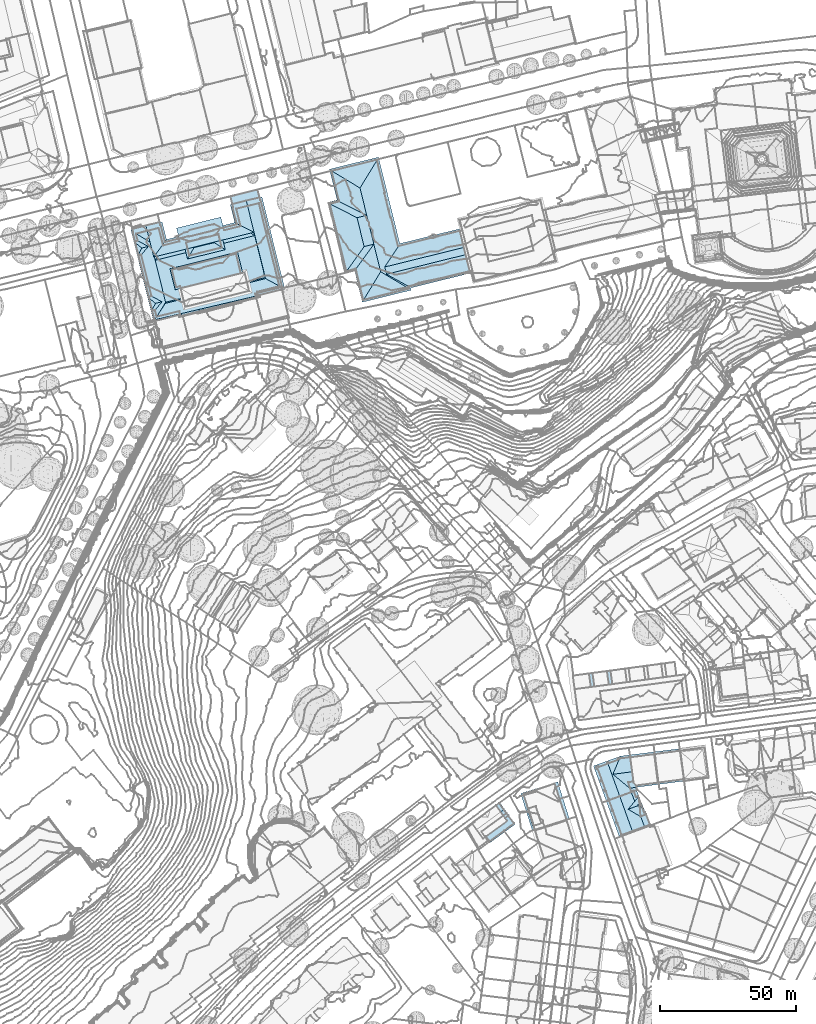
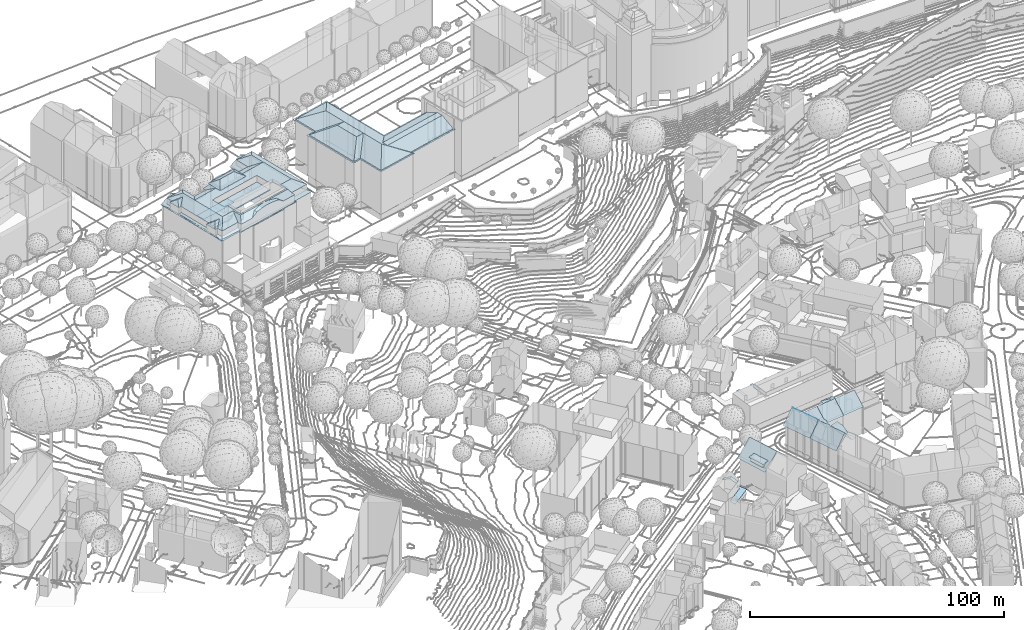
# Not in any storey, part 72 of 494: 21 roofs.
"""IFC2X3 model written with IfcOpenShell, lengths in metres."""

from ifc_helpers import new_model, si_unit, frame, origin_with_axes, place, context, subcontext, project, faceted_brep, element, save


model = new_model("IFC2X3")

# Units and contexts
model_context = context("Model", 3, precision=1e-05, world=origin_with_axes())
body_context = subcontext(model_context, "Body", "Model", "MODEL_VIEW")
ifc_project = project(units=[si_unit("AREAUNIT", "SQUARE_METRE"), si_unit("LENGTHUNIT", "METRE")], contexts=[model_context])

# Roofs
roof_1_placement = place(None, frame((424.3367320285, 142.6277160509, 499.4686), z_axis=(0.0, 0.0, 1.0), x_axis=(1.0, 0.0, 0.0)))
element("IfcRoof", 1, at=roof_1_placement, Name="Roof 1", ShapeType="NOTDEFINED", context=body_context, shape_type="Brep", body=[
    faceted_brep([(7.9599999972, -5.2518999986, 5.0955), (8.1849999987, -5.5594999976, 5.0315), (7.868999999, -4.5262999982, 5.2045), (7.5859999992, -4.740199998, 5.2025), (6.9169999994, -3.2236000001, 5.4764), (14.675999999, 2.452200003, 5.4764), (17.4479999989, 1.2159000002, 5.0315), (15.050999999, 4.3672000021, 5.7004), (14.4489999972, 5.3145000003, 5.8894), (13.8949999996, 3.5215000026, 5.7004), (14.3859999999, 5.2675999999, 5.8894), (7.8849999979, -5.1503999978, 5.1075)], [[[0, 1, 2]], [[2, 3, 0]], [[4, 2, 5]], [[1, 6, 2]], [[5, 6, 7]], [[6, 5, 2]], [[7, 6, 8]], [[5, 7, 9]], [[10, 7, 8]], [[3, 11, 0]]]),
])
roof_2_placement = place(None, frame((424.3367320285, 142.6277160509, 499.4686), z_axis=(0.0, 0.0, 1.0), x_axis=(1.0, 0.0, 0.0)))
element("IfcRoof", 2, at=roof_2_placement, Name="Roof 3", ShapeType="NOTDEFINED", context=body_context, shape_type="Brep", body=[
    faceted_brep([(10.3319999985, 8.3916000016, 7.6103), (12.2349999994, 5.7920000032, 9.1091), (11.8349999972, 8.7226999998, 7.8742), (11.75, 9.3476999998, 7.6103), (13.6119999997, 6.8008000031, 9.1091), (15.0859999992, 4.3925999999, 7.6102), (15.2739999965, 4.5313000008, 7.6102), (15.050999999, 4.3672000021, 7.6102), (13.8949999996, 3.5215000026, 7.6102)], [[[0, 1, 2]], [[3, 0, 2]], [[1, 4, 2]], [[4, 3, 2]], [[5, 6, 4]], [[7, 5, 4]], [[4, 8, 7]], [[1, 8, 4]]]),
])
roof_3_placement = place(None, frame((444.9497320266, 154.9236160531, 498.9646), z_axis=(0.0, 0.0, 1.0), x_axis=(1.0, 0.0, 0.0)))
element("IfcRoof", 3, at=roof_3_placement, Name="Roof 0", ShapeType="NOTDEFINED", context=body_context, shape_type="Brep", body=[
    faceted_brep([(-1.1059999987, 0.2314999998, 12.9798), (1.8170000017, -5.2655999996, 13.7497), (0.2419999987, 0.6563000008, 13.9397), (0.4070000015, 0.1338, 13.9397), (2.0839999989, -5.1816000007, 13.9397), (4.2390000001, -13.3515000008, 13.6667), (4.3049999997, -13.558600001, 13.6667), (3.3390000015, -13.8632000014, 12.9798), (3.8170000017, -11.6053999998, 13.7497), (4.6229999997, -13.2303999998, 13.9397), (4.0839999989, -11.5214000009, 13.9397), (7.2230000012, -12.6385999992, 16.5164), (10.1180000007, -11.7256000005, 19.4591), (7.1570000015, -12.4306000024, 16.5164), (10.0529999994, -11.5175000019, 19.4591), (6.3040000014, -11.3456999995, 16.0445), (4.0029999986, -4.0516999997, 16.0445), (6.0729999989, -11.4189000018, 15.8095), (5.9230000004, -10.9422999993, 15.8095), (5.813000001, 1.9208999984, 19.4592), (5.6719999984, 2.3691999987, 19.4592), (3.7719999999, -4.125, 15.8095), (3.9230000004, -4.6006000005, 15.8095), (12.8110000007, -10.6493999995, 16.6554), (12.8770000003, -10.8553999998, 16.6554), (15.4829999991, -9.8056000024, 13.9397), (11.2199999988, 3.7080000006, 13.9397), (11.1020000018, 4.0810999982, 13.9397), (16.8960000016, -9.5879000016, 12.9798), (15.8229999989, -9.6992000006, 13.6967), (15.8880000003, -9.9061999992, 13.6977), (12.4510000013, 4.5068999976, 12.9798), (1.1900000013, -4.9384000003, 15.6195), (3.4910000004, -12.2334000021, 15.6195)], [[[0, 1, 2]], [[2, 1, 3]], [[4, 3, 1]], [[1, 0, 5]], [[6, 5, 7]], [[8, 1, 5]], [[8, 9, 10]], [[8, 5, 9]], [[5, 0, 7]], [[11, 12, 13]], [[14, 13, 12]], [[15, 13, 16]], [[15, 17, 13]], [[13, 17, 9]], [[9, 17, 10]], [[10, 17, 18]], [[16, 13, 14]], [[19, 20, 16]], [[16, 20, 2]], [[16, 3, 21]], [[3, 16, 2]], [[21, 3, 4]], [[22, 21, 4]], [[16, 14, 19]], [[12, 23, 14]], [[23, 12, 24]], [[25, 26, 23]], [[26, 27, 20]], [[19, 14, 23]], [[19, 26, 20]], [[19, 23, 26]], [[28, 29, 30]], [[29, 31, 26]], [[31, 29, 28]], [[26, 25, 29]], [[27, 26, 31]], [[16, 32, 33]], [[33, 15, 16]]]),
])
roof_4_placement = place(None, frame((463.0307320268, 198.249816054, 500.4205), z_axis=(0.0, 0.0, 1.0), x_axis=(1.0, 0.0, 0.0)))
element("IfcRoof", 4, at=roof_4_placement, Name="Roof 2", ShapeType="NOTDEFINED", context=body_context, shape_type="Brep", body=[
    faceted_brep([(5.9059999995, 0.9306999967, 8.4932), (6.5870000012, -4.1562000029, 8.4932), (7.8759999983, -3.9834000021, 8.4932), (7.1950000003, 1.1024999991, 8.4932)], [[[0, 1, 2]], [[0, 2, 3]]]),
])
roof_5_placement = place(None, frame((463.0307320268, 198.249816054, 500.4205), z_axis=(0.0, 0.0, 1.0), x_axis=(1.0, 0.0, 0.0)))
element("IfcRoof", 5, at=roof_5_placement, Name="Roof 3", ShapeType="NOTDEFINED", context=body_context, shape_type="Brep", body=[
    faceted_brep([(13.1790000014, -3.2734000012, 8.4932), (13.7859999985, 1.9862999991, 8.4932), (12.4979999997, 1.8134999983, 8.4932), (14.4679999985, -3.1006000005, 8.4932)], [[[0, 1, 2]], [[0, 3, 1]]]),
])
roof_6_placement = place(None, frame((300.9637320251, 364.7801160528, 537.8963), z_axis=(0.0, 0.0, 1.0), x_axis=(1.0, 0.0, 0.0)))
element("IfcRoof", 6, at=roof_6_placement, Name="Roof 6", ShapeType="NOTDEFINED", context=body_context, shape_type="Brep", body=[
    faceted_brep([(41.068, -18.9824000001, 22.8008), (39.1620000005, -11.2890999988, 22.8008), (14.3980000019, -17.4257999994, 22.8008), (16.3040000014, -25.1182000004, 22.8008)], [[[0, 1, 2]], [[2, 3, 0]]]),
])
roof_7_placement = place(None, frame((300.9637320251, 364.7801160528, 537.8963), z_axis=(0.0, 0.0, 1.0), x_axis=(1.0, 0.0, 0.0)))
element("IfcRoof", 7, at=roof_7_placement, Name="Roof 7", ShapeType="NOTDEFINED", context=body_context, shape_type="Brep", body=[
    faceted_brep([(36.6130000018, 9.0566000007, 9.4711), (37.318, 6.2168000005, 9.4711), (47.2730000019, 8.683600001, 9.4711), (46.5520000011, 11.5449000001, 9.4711)], [[[0, 1, 2]], [[2, 3, 0]]]),
])
roof_8_placement = place(None, frame((300.9637320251, 364.7801160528, 537.8963), z_axis=(0.0, 0.0, 1.0), x_axis=(1.0, 0.0, 0.0)))
element("IfcRoof", 8, at=roof_8_placement, Name="Roof 8", ShapeType="NOTDEFINED", context=body_context, shape_type="Brep", body=[
    faceted_brep([(34.0020000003, -2.3808999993, 9.1961), (33.0390000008, 1.5088, 9.1961), (30.3570000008, -3.3018000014, 9.1961), (30.3940000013, -3.4512000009, 9.1961), (21.318, -5.7001999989, 9.1961), (16.824000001, -2.509800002, 9.1961), (17.7890000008, -6.4043000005, 9.1961), (21.2770000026, -5.5459000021, 9.1961)], [[[0, 1, 2]], [[3, 2, 4]], [[1, 5, 2]], [[5, 6, 7]], [[7, 4, 2]], [[5, 7, 2]]]),
])
roof_9_placement = place(None, frame((300.9637320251, 364.7801160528, 537.8963), z_axis=(0.0, 0.0, 1.0), x_axis=(1.0, 0.0, 0.0)))
element("IfcRoof", 9, at=roof_9_placement, Name="Roof 9", ShapeType="NOTDEFINED", context=body_context, shape_type="Brep", body=[
    faceted_brep([(47.3420000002, -27.0811000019, 20.327), (46.6359999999, -27.246100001, 20.332), (46.6380000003, -27.2558999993, 20.327), (46.756000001, -27.7334000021, 20.327), (40.6290000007, -29.5410000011, 20.327), (18.3710000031, -34.7675999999, 20.327), (47.5280000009, -27.8320000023, 20.327), (40.7200000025, -29.9072000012, 20.327), (24.6359999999, -33.8925999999, 20.327), (18.2520000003, -34.2881000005, 20.327), (17.6770000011, -34.4316999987, 20.327), (17.8630000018, -35.182599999, 20.327), (24.5450000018, -33.5263999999, 20.327), (18.1600000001, -33.9151000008, 20.546), (8.814000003, -36.1044999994, 20.616), (9.1710000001, -36.5390999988, 20.327), (8.3990000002, -36.7305000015, 20.327), (0.7080000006, -2.8544999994, 20.686), (0.0460000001, -3.0186000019, 20.3271), (1.6770000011, -7.4483000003, 20.6), (2.6680000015, -7.2021999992, 21.138), (2.0190000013, -4.5850000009, 21.138), (2.943, -12.5283000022, 20.603), (5.6190000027, -1.6376999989, 23.3528), (6.0990000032, -3.5742000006, 23.3528), (6.7240000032, -27.7089999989, 20.613), (3.9270000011, -12.2842000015, 21.138), (7.6900000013, -27.4706999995, 21.1379), (8.0850000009, -32.7666000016, 20.669), (7.9890000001, -32.7901000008, 20.617), (9.5480000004, -34.9688000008, 21.1359), (8.949000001, -32.5527000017, 21.1359), (8.495000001, -32.6651000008, 20.889), (46.7561000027, -27.7334000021, 20.127), (46.6359999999, -27.246100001, 20.132), (46.6380000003, -27.2558999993, 20.127)], [[[0, 1, 2]], [[0, 2, 3]], [[4, 3, 5]], [[0, 3, 6]], [[4, 6, 3]], [[7, 4, 8]], [[9, 10, 5]], [[5, 10, 11]], [[5, 12, 4]], [[12, 8, 4]], [[11, 12, 5]], [[9, 13, 10]], [[10, 13, 14]], [[15, 14, 16]], [[14, 15, 10]], [[17, 18, 19]], [[20, 21, 19]], [[19, 21, 17]], [[22, 19, 18]], [[18, 16, 22]], [[17, 21, 23]], [[24, 23, 21]], [[22, 25, 26]], [[25, 27, 26]], [[28, 29, 16]], [[16, 29, 25]], [[28, 16, 14]], [[25, 22, 16]], [[14, 30, 31]], [[14, 31, 32]], [[28, 14, 32]], [[33, 34, 35]]]),
])
roof_10_placement = place(None, frame((300.9637320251, 364.7801160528, 537.8963), z_axis=(0.0, 0.0, 1.0), x_axis=(1.0, 0.0, 0.0)))
element("IfcRoof", 10, at=roof_10_placement, Name="Roof 10", ShapeType="NOTDEFINED", context=body_context, shape_type="Brep", body=[
    faceted_brep([(18.4200000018, -24.5859999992, 23.3527), (40.4450000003, -19.1308999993, 23.3527), (18.2440000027, -23.875, 23.3527), (15.1810000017, -17.8007999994, 23.3527), (16.7770000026, -24.2382999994, 23.3527), (38.6730000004, -11.9785000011, 23.3527)], [[[0, 1, 2]], [[3, 4, 2]], [[1, 3, 2]], [[1, 5, 3]]]),
])
roof_11_placement = place(None, frame((300.9637320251, 364.7801160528, 537.8963), z_axis=(0.0, 0.0, 1.0), x_axis=(1.0, 0.0, 0.0)))
element("IfcRoof", 11, at=roof_11_placement, Name="Roof 11", ShapeType="NOTDEFINED", context=body_context, shape_type="Brep", body=[
    faceted_brep([(11.8500000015, -8.4512000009, 21.157), (8.4670000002, -13.1338, 23.3528), (40.2690000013, -1.5547000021, 21.2399), (13.1290000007, -6.6807000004, 20.327), (12.5890000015, -7.4287, 20.678), (38.8990000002, -0.870099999, 20.656), (38.1280000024, -0.4862999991, 20.327), (45.2230000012, -4.0263999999, 23.3527), (55.6579999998, -24.371100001, 20.6809), (56.4830000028, -24.816399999, 20.327), (48.1300000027, 8.8955000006, 20.327), (49.4330000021, -21.0175999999, 23.3527), (54.5620000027, -23.7813000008, 21.1509), (47.2730000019, 8.683600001, 20.778), (42.375, 7.4697000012, 23.3528), (36.5160000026, 6.0175999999, 20.327), (37.318, 6.2168000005, 20.741), (5.6190000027, -1.6376999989, 23.3528), (6.0990000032, -3.5742000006, 23.3528), (10.6750000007, -0.3858000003, 20.759), (11.5170000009, -0.1768000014, 20.3271), (9.5480000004, -34.9688000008, 21.1359), (18.1550000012, -33.9169999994, 20.546), (8.814000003, -36.1044999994, 20.616), (12.6770000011, -30.1240000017, 23.3527), (55.5190000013, -25.0557000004, 20.327), (47.3420000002, -27.0811000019, 20.327)], [[[0, 1, 2]], [[3, 4, 5]], [[0, 5, 4]], [[5, 0, 2]], [[6, 3, 5]], [[2, 1, 7]], [[8, 9, 10]], [[11, 12, 7]], [[8, 13, 12]], [[13, 7, 12]], [[14, 7, 13]], [[13, 8, 10]], [[5, 2, 14]], [[6, 5, 14]], [[2, 7, 14]], [[15, 6, 16]], [[16, 6, 14]], [[17, 18, 19]], [[3, 20, 19]], [[19, 18, 0]], [[4, 19, 0]], [[3, 19, 4]], [[0, 18, 1]], [[11, 21, 22]], [[22, 21, 23]], [[24, 21, 11]], [[25, 9, 8]], [[25, 8, 26]], [[12, 11, 22]], [[12, 26, 8]], [[12, 22, 26]]]),
])
roof_12_placement = place(None, frame((300.9637320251, 364.7801160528, 537.8963), z_axis=(0.0, 0.0, 1.0), x_axis=(1.0, 0.0, 0.0)))
element("IfcRoof", 12, at=roof_12_placement, Name="Roof 13", ShapeType="NOTDEFINED", context=body_context, shape_type="Brep", body=[
    faceted_brep([(4.0890000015, -9.8359999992, 25.7165), (6.4920000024, -9.2412, 25.7165), (1.7910000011, -7.9052999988, 24.1767), (2.6680000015, -7.2021999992, 23.8777), (1.6770000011, -7.4483000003, 23.8777), (1.3450000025, -7.5302999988, 23.8777), (12.8100000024, -29.6797000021, 26.4104), (11.5150000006, -29.5088, 25.7165), (9.5610000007, -35.0214999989, 23.8777), (7.6900000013, -27.4706999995, 23.8777), (8.9980000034, -14.2987999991, 26.4105), (8.949000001, -32.5527999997, 23.8777), (7.3859999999, -7.7930000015, 26.4105), (2.0190000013, -4.5850000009, 23.8777), (3.9270000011, -12.2842000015, 23.8777), (10.3790000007, -2.5146999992, 23.8777), (11.9610000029, -8.8984999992, 23.8777), (2.6040000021, -12.6123000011, 23.8777), (2.943, -12.5283000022, 23.8777), (2.8500000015, -12.1533000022, 24.1817), (7.626000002, -32.8808999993, 23.8777), (7.9890000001, -32.7901000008, 23.8777), (9.1110000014, -30.1044999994, 25.7165), (6.8470000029, -28.2021999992, 24.1997), (6.3660000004, -27.7987999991, 23.8777), (6.7240000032, -27.7089999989, 23.8777), (17.9210000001, -32.9501999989, 23.8777), (18.4539999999, -28.2802999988, 26.4104), (20.8410000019, -13.8418000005, 26.4104), (20.2630000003, -11.5078000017, 26.4105), (15.1810000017, -17.8007999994, 26.4104), (34.0820000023, -8.0820000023, 26.4104), (34.6600000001, -10.4169999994, 26.4104), (45.438000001, -5.2695000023, 26.4104), (38.6730000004, -11.9785000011, 26.4104), (16.7770000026, -24.2382999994, 26.4104), (18.2440000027, -23.875, 26.4104), (18.3770000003, -24.5976999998, 26.4104), (18.4200000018, -24.5859999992, 26.4104), (41.8080000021, -18.7919999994, 26.4104), (40.4450000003, -19.1308999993, 26.4104), (20.0600000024, -31.3905999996, 26.4104), (19.4600000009, -32.3368999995, 26.4104), (25.9299999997, -29.9862999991, 26.4104), (43.4110000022, -22.0967000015, 26.4104), (49.2490000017, -20.6493999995, 26.4104), (43.4910000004, -25.5850000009, 26.4104), (44.4170000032, -26.1533000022, 26.4104), (31.7890000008, -28.5410000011, 26.4104), (32.012000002, -29.2276000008, 26.4104), (34.6469999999, -30.7344000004, 26.3244), (34.1600000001, -28.7686000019, 26.3244), (32.5160000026, -31.2626999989, 26.4104), (29.8990000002, -29.8242000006, 26.3244), (30.3859999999, -31.7901000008, 26.3244), (26.3390000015, -31.2655999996, 25.6685), (24.2840000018, -33.3027999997, 23.8777), (26.6950000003, -32.7041000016, 25.6685), (40.7480000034, -29.2226999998, 23.8777), (37.9810000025, -28.3819000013, 25.6685), (38.3370000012, -29.8194000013, 25.6685), (47.0410000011, 6.5702999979, 23.8777), (38.7640000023, 4.5194999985, 23.8777), (43.8260000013, 1.2353000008, 26.4104), (54.5830000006, -23.8652999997, 23.8776), (46.3060000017, -25.9160000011, 23.8776), (33.6920000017, -8.1797000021, 26.4104), (33.9800000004, -8.1084000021, 26.4104), (34.0530000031, -7.9688000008, 26.3445), (34.3390000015, -3.3535000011, 23.8777), (40.3460000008, -1.8652000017, 23.8777), (21.7900000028, -5.5830000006, 25.3436), (21.6490000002, -5.0166000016, 25.3436), (20.7160000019, -5.6845999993, 24.3887), (21.9410000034, -6.1944000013, 25.3436), (20.0600000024, -5.4101999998, 23.8777), (24.4790000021, -6.0225000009, 25.8795), (24.0810000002, -4.4140999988, 25.8795), (29.3220000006, -3.1152999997, 25.3436), (30.3680000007, -3.3779000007, 24.4916), (30.9110000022, -2.7217000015, 23.8777), (29.4630000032, -3.682599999, 25.3436), (30.2870000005, -3.4785000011, 24.5836), (29.6140000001, -4.2930000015, 25.3436), (27.2880000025, -5.3262000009, 25.8795), (26.8900000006, -3.7188000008, 25.8795), (25.4850000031, -4.066399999, 25.9505), (25.8980000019, -5.7314999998, 25.9505), (32.268000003, -4.9228999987, 27.1734), (32.9820000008, -3.6455000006, 26.5444), (19.1630000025, -7.0694000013, 26.5444), (30.6400000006, -7.8368999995, 28.6072), (20.3920000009, -7.8662, 27.1734), (23.1920000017, -9.682599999, 28.6072), (20.8410000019, -13.8418000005, 26.5444), (21.557, -12.5742000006, 27.1734), (33.4350000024, -9.6319000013, 27.1724), (34.6600000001, -10.4169999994, 26.5444), (19.8040000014, -7.6338, 26.4105), (20.375, -7.7998000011, 26.4105), (32.2520000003, -4.8564999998, 26.4104), (20.7350000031, -11.3905999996, 26.4105), (21.5710000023, -12.628899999, 26.4104), (20.3650000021, -11.4824000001, 26.4105), (32.7609999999, -4.4237999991, 26.4105), (34.5310000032, -10.3339999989, 26.4104), (33.449000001, -9.6865000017, 26.4104), (20.9160000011, -13.7080000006, 26.4104), (20.2340000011, -11.3925999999, 26.3445), (17.9100000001, -7.4237999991, 23.8777), (18.3710000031, -34.7675999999, 23.8777), (17.564000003, -6.0283000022, 23.8777), (17.6640000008, -6.432599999, 23.8777), (18.0100000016, -6.3476999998, 24.3817), (46.756000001, -27.7334000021, 23.8776), (33.7430000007, -2.4589999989, 24.3916), (33.9930000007, -1.9580000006, 23.8777), (34.0950000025, -2.371100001, 23.8777), (43.4910000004, -25.5850000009, 26.2104), (20.120000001, -31.375, 26.2104)], [[[0, 1, 2]], [[2, 1, 3]], [[2, 4, 5]], [[4, 2, 3]], [[6, 7, 8]], [[9, 7, 10]], [[7, 11, 8]], [[7, 6, 10]], [[10, 12, 1]], [[1, 12, 13]], [[10, 1, 14]], [[13, 3, 1]], [[10, 14, 9]], [[15, 12, 16]], [[10, 16, 12]], [[15, 13, 12]], [[17, 18, 19]], [[19, 18, 1]], [[1, 0, 19]], [[1, 18, 14]], [[2, 5, 17]], [[2, 19, 0]], [[19, 2, 17]], [[20, 21, 7]], [[7, 22, 20]], [[7, 21, 11]], [[23, 24, 20]], [[20, 22, 23]], [[7, 9, 22]], [[22, 9, 23]], [[23, 25, 24]], [[25, 23, 9]], [[6, 8, 26]], [[26, 27, 6]], [[10, 28, 29]], [[28, 10, 30]], [[31, 32, 33]], [[32, 28, 34]], [[6, 35, 30]], [[36, 37, 38]], [[37, 36, 35]], [[34, 28, 30]], [[30, 10, 6]], [[39, 33, 34]], [[34, 33, 32]], [[39, 34, 40]], [[6, 27, 37]], [[41, 42, 43]], [[42, 37, 27]], [[41, 37, 42]], [[39, 44, 45]], [[44, 46, 47]], [[39, 45, 33]], [[46, 44, 39]], [[48, 43, 49]], [[46, 49, 47]], [[49, 46, 48]], [[43, 42, 49]], [[37, 35, 6]], [[50, 51, 52]], [[49, 52, 51]], [[52, 49, 53]], [[53, 54, 52]], [[55, 56, 57]], [[54, 53, 57]], [[55, 57, 53]], [[58, 59, 60]], [[60, 59, 50]], [[51, 50, 59]], [[61, 62, 63]], [[45, 64, 33]], [[33, 61, 63]], [[61, 33, 64]], [[44, 65, 45]], [[64, 45, 65]], [[66, 67, 68]], [[66, 68, 69]], [[33, 70, 68]], [[69, 68, 70]], [[68, 31, 33]], [[70, 33, 63]], [[63, 62, 70]], [[71, 72, 73]], [[71, 73, 74]], [[73, 72, 75]], [[71, 74, 76]], [[72, 71, 77]], [[76, 77, 71]], [[78, 79, 80]], [[78, 81, 82]], [[83, 82, 81]], [[78, 82, 79]], [[84, 78, 85]], [[81, 78, 84]], [[81, 84, 83]], [[86, 87, 84]], [[84, 85, 86]], [[86, 77, 76]], [[76, 87, 86]], [[88, 89, 90]], [[91, 88, 92]], [[92, 93, 91]], [[90, 92, 88]], [[92, 90, 94]], [[92, 95, 93]], [[95, 92, 94]], [[95, 96, 93]], [[96, 95, 94]], [[96, 91, 93]], [[97, 96, 94]], [[96, 97, 88]], [[96, 88, 91]], [[88, 97, 89]], [[98, 99, 100]], [[99, 101, 102]], [[101, 103, 102]], [[99, 98, 101]], [[100, 104, 98]], [[100, 66, 104]], [[105, 106, 102]], [[102, 107, 105]], [[102, 103, 107]], [[105, 67, 106]], [[67, 66, 106]], [[100, 106, 66]], [[16, 108, 109]], [[108, 16, 10]], [[108, 101, 109]], [[101, 108, 103]], [[29, 108, 10]], [[42, 27, 26]], [[26, 110, 42]], [[111, 112, 113]], [[113, 112, 109]], [[101, 98, 113]], [[101, 113, 109]], [[58, 114, 59]], [[59, 114, 47]], [[51, 59, 47]], [[49, 51, 47]], [[53, 49, 42]], [[55, 53, 42]], [[55, 110, 56]], [[110, 55, 42]], [[114, 65, 47]], [[44, 47, 65]], [[98, 74, 113]], [[74, 98, 76]], [[87, 76, 98]], [[98, 104, 87]], [[111, 113, 75]], [[73, 75, 113]], [[113, 74, 73]], [[83, 84, 104]], [[115, 83, 104]], [[83, 115, 82]], [[84, 87, 104]], [[80, 115, 116]], [[115, 80, 79]], [[79, 82, 115]], [[104, 66, 115]], [[115, 66, 69]], [[115, 117, 116]], [[117, 115, 69]], [[118, 119, 48]], [[48, 119, 43]]]),
])
roof_13_placement = place(None, frame((475.9607320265, 152.5359160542, 499.4976), z_axis=(0.0, 0.0, 1.0), x_axis=(1.0, 0.0, 0.0)))
element("IfcRoof", 13, at=roof_13_placement, Name="Roof 0", ShapeType="NOTDEFINED", context=body_context, shape_type="Brep", body=[
    faceted_brep([(12.5850000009, -2.8017000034, 15.8534), (13.5419999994, -4.2285000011, 13.9276), (13.0819999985, -3.071200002, 15.3145), (10.8319999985, -1.8554000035, 17.7542), (13.2010000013, -4.3515000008, 13.9976), (13.1119999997, -4.2578000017, 14.1386), (13.8729999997, -5.0605000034, 12.9307), (7.2580000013, -3.1504000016, 17.7112), (11.870000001, -5.8955000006, 12.7847), (11.2109999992, 1.5937999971, 12.8967), (11.0599999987, 1.4120999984, 13.0807), (11.1600000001, 1.1338, 13.5436), (11.7259999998, -0.4287, 15.7334), (11.9109999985, -0.1318000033, 15.3145)], [[[0, 1, 2]], [[1, 0, 3]], [[4, 1, 5]], [[1, 4, 6]], [[5, 1, 3]], [[7, 5, 3]], [[5, 7, 8]], [[4, 8, 6]], [[8, 4, 5]], [[9, 10, 11]], [[11, 7, 3]], [[7, 11, 10]], [[9, 11, 12]], [[9, 12, 13]], [[12, 11, 3]], [[0, 2, 13]], [[12, 3, 0]], [[13, 12, 0]]]),
])
roof_14_placement = place(None, frame((475.9607320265, 152.5359160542, 499.4976), z_axis=(0.0, 0.0, 1.0), x_axis=(1.0, 0.0, 0.0)))
element("IfcRoof", 14, at=roof_14_placement, Name="Roof 1", ShapeType="NOTDEFINED", context=body_context, shape_type="Brep", body=[
    faceted_brep([(9.6680000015, -0.2578000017, 12.5737), (9.4239999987, 3.4130999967, 12.5967), (8.3819999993, 3.0361999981, 12.5987), (10.6689999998, 0.9423999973, 12.5767), (10.1860000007, 3.6884999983, 12.5947), (11.2109999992, 1.5937999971, 12.6027), (10.3920000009, 3.7626999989, 12.6027), (11.0599999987, 1.4120999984, 12.5957), (11.2809999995, 0.8017999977, 12.5947), (15.3020000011, -8.875, 12.6027), (11.870000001, -5.8955000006, 12.5307), (15.0579999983, -8.9638000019, 12.6027), (13.2730000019, -9.6113000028, 12.5027), (13.8729999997, -5.0605000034, 12.6027), (4.7390000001, -12.7187000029, 13.5126), (8.8150000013, -11.2343000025, 18.5301), (0.0, 0.0, 13.3957), (3.9250000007, -13.0166000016, 12.5107), (-0.7190000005, -0.2597000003, 12.5107), (1.7479999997, 0.6328999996, 15.5464), (4.2050000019, 1.5224999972, 18.5252), (8.8300000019, -1.2646000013, 14.1886), (6.4640000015, 2.3408999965, 15.4795), (7.2580000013, -3.1504000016, 16.9023), (4.4210000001, 1.6005999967, 18.2632), (10.5179999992, -10.6123000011, 16.1894)], [[[0, 1, 2]], [[1, 3, 4]], [[3, 1, 0]], [[5, 6, 7]], [[4, 3, 7]], [[7, 8, 5]], [[4, 7, 6]], [[9, 10, 11]], [[11, 10, 12]], [[10, 9, 13]], [[14, 15, 16]], [[17, 14, 18]], [[16, 18, 14]], [[19, 16, 15]], [[19, 15, 20]], [[21, 22, 23]], [[23, 22, 24]], [[15, 23, 24]], [[10, 23, 15]], [[15, 24, 20]], [[2, 22, 0]], [[21, 0, 22]], [[10, 25, 12]], [[25, 10, 15]]]),
])
roof_15_placement = place(None, frame((484.0377320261, 168.4207160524, 499.5076), z_axis=(0.0, 0.0, 1.0), x_axis=(1.0, 0.0, 0.0)))
element("IfcRoof", 15, at=roof_15_placement, Name="Roof 0", ShapeType="NOTDEFINED", context=body_context, shape_type="Brep", body=[
    faceted_brep([(9.4840000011, -4.1561999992, 18.0972), (9.1700000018, -1.6893999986, 15.8574), (6.0, -1.1035000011, 14.9625), (0.0190000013, -0.1405999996, 13.3997), (0.7120000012, -5.3027000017, 18.0912), (5.9820000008, -0.9472999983, 14.8185), (5.7919999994, 0.6856000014, 13.3257), (-0.0889999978, 0.6631000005, 12.6617), (6.0659999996, 0.8027000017, 13.2527), (6.0760000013, 0.7236000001, 13.3247), (6.6909999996, 0.8856999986, 13.2507), (6.7010000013, 0.8066000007, 13.3227), (8.819000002, 1.0683999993, 13.3347), (8.7890000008, 1.3027000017, 13.1197), (-0.1140000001, 0.8524999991, 12.4808), (8.7039999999, 1.9677999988, 12.4827), (9.2120000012, -0.4219000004, 15.7874), (11.6810000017, 1.7206999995, 15.0095), (5.7640000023, 0.9237999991, 15.0095), (9.0289999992, -0.5810000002, 15.8454), (2.1359999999, -10.4189000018, 13.6186), (9.8790000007, -7.2606999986, 15.4335), (1.251000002, -9.3192999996, 14.6435), (2.2750000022, -10.871100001, 13.2217), (10.1469999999, -9.3623000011, 13.6296), (2.313000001, -10.9921999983, 13.1147), (10.2230000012, -9.9600000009, 13.1167), (9.3680000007, -1.5967000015, 15.7974), (11.9539999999, -0.3964999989, 15.0195), (5.7919999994, 0.6856000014, 15.0105), (6.0, -1.1035000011, 15.0195)], [[[0, 1, 2]], [[0, 2, 3]], [[3, 4, 0]], [[3, 2, 5]], [[5, 6, 7]], [[3, 5, 7]], [[8, 6, 9]], [[6, 8, 7]], [[7, 8, 10]], [[10, 11, 12]], [[12, 13, 10]], [[10, 13, 7]], [[14, 7, 13]], [[13, 15, 14]], [[16, 17, 18]], [[18, 19, 16]], [[4, 20, 21]], [[4, 22, 20]], [[20, 23, 24]], [[25, 26, 24]], [[0, 4, 21]], [[21, 20, 24]], [[23, 25, 24]], [[1, 27, 19]], [[19, 27, 16]], [[16, 28, 17]], [[28, 16, 27]], [[18, 29, 19]], [[30, 1, 19]], [[30, 19, 29]]]),
])
roof_16_placement = place(None, frame((492.8567320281, 169.4891160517, 499.5076), z_axis=(0.0, 0.0, 1.0), x_axis=(1.0, 0.0, 0.0)))
element("IfcRoof", 16, at=roof_16_placement, Name="Roof 0", ShapeType="NOTDEFINED", context=body_context, shape_type="Brep", body=[
    faceted_brep([(10.9119999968, -9.0, 13.7836), (10.8149999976, -8.2734999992, 14.4075), (1.4039999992, -11.0284000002, 13.1167), (11.0119999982, -9.746100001, 13.1427), (10.2410000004, -3.9726999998, 18.1042), (1.0599999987, -8.3290999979, 15.4335), (1.3279999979, -10.4307000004, 13.6296), (11.0159999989, -9.7734999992, 13.1197), (0.6649999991, -5.2245999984, 18.0972), (0.3209999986, -2.5243999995, 15.6454), (0.5189999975, -2.4433999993, 15.5954), (-0.0300000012, 0.2343000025, 13.1197), (0.0, 0.0, 13.3347), (0.1919999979, 0.0234000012, 13.3357), (2.5859999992, 0.4228000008, 13.2547), (9.5859999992, 0.9277000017, 13.6146), (9.5279999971, 1.3593000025, 13.2007), (9.4289999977, 2.1064000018, 12.4857), (-0.1150000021, 0.8993999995, 12.4827)], [[[0, 1, 2]], [[3, 0, 2]], [[1, 4, 5]], [[2, 1, 6]], [[7, 3, 2]], [[6, 1, 5]], [[5, 4, 8]], [[4, 9, 8]], [[10, 9, 4]], [[11, 12, 13]], [[11, 13, 14]], [[10, 14, 13]], [[10, 4, 14]], [[14, 4, 15]], [[14, 15, 16]], [[16, 17, 11]], [[11, 14, 16]], [[17, 18, 11]]]),
])
roof_17_placement = place(None, frame((471.492732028, 164.8240160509, 499.4976), z_axis=(0.0, 0.0, 1.0), x_axis=(1.0, 0.0, 0.0)))
element("IfcRoof", 17, at=roof_17_placement, Name="Roof 0", ShapeType="NOTDEFINED", context=body_context, shape_type="Brep", body=[
    faceted_brep([(6.1339999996, -2.6376999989, 18.0962), (12.5149999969, -7.7030999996, 13.1227), (13.7960000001, -5.7225999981, 14.6535), (14.680999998, -6.8222000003, 13.6286), (12.2579999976, -7.7372999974, 13.1227), (12.106999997, 3.5391000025, 13.2807), (8.9149999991, 4.004900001, 12.4898), (8.5969999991, 3.246100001, 13.1307), (12.561999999, 3.4726999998, 13.3937), (13.2569999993, -1.7060000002, 18.1012), (12.5449999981, 3.5967000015, 13.2797), (12.4560000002, 4.259800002, 12.6717), (12.430999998, 4.4492000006, 12.4908), (14.856999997, -7.3954999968, 13.1247)], [[[0, 1, 2]], [[2, 1, 3]], [[1, 0, 4]], [[5, 6, 7]], [[8, 5, 9]], [[0, 9, 5]], [[0, 5, 7]], [[8, 10, 5]], [[11, 6, 5]], [[11, 5, 10]], [[6, 11, 12]], [[0, 2, 9]], [[3, 1, 13]]]),
])
roof_18_placement = place(None, frame((471.492732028, 164.8240160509, 499.4976), z_axis=(0.0, 0.0, 1.0), x_axis=(1.0, 0.0, 0.0)))
element("IfcRoof", 18, at=roof_18_placement, Name="Roof 1", ShapeType="NOTDEFINED", context=body_context, shape_type="Brep", body=[
    faceted_brep([(2.061999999, -4.6796999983, 13.7926), (-0.9700000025, 0.4131000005, 12.5118), (3.748999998, -12.547799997, 12.5107), (4.4679999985, -12.2880999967, 13.3957), (6.2159999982, -11.6551999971, 15.5464), (4.2079999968, 1.5888999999, 18.5192), (8.6730000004, -10.7655999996, 18.5252), (3.9809999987, 2.2158000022, 18.5192)], [[[0, 1, 2]], [[3, 4, 0]], [[3, 0, 2]], [[0, 4, 5]], [[5, 4, 6]], [[7, 1, 0]], [[7, 0, 5]]]),
])
roof_19_placement = place(None, frame((471.492732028, 164.8240160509, 499.4976), z_axis=(0.0, 0.0, 1.0), x_axis=(1.0, 0.0, 0.0)))
element("IfcRoof", 19, at=roof_19_placement, Name="Roof 2", ShapeType="NOTDEFINED", context=body_context, shape_type="Brep", body=[
    faceted_brep([(14.6549999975, -8.5995999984, 12.5947), (14.4529999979, -7.4481999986, 12.6027), (13.8919999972, -8.875, 12.5967), (12.5149999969, -7.7030999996, 12.6097), (12.8499999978, -9.2518999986, 12.5987), (12.2579999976, -7.7372999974, 12.6107), (14.8599999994, -8.5253999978, 12.6027), (10.932, -9.9472000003, 15.4795), (6.1339999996, -2.6376999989, 18.0962), (8.8889999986, -10.6875, 18.2632), (8.6730000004, -10.7655999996, 18.5252), (4.2079999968, 1.5888999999, 18.5192), (4.2520000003, 1.6055000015, 18.4662), (3.9809999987, 2.2158000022, 18.5192), (7.9859999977, 1.7851999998, 14.1636), (8.9149999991, 4.004900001, 12.1898), (8.5969999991, 3.246100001, 12.8647)], [[[0, 1, 2]], [[2, 1, 3]], [[4, 3, 5]], [[3, 4, 2]], [[1, 0, 6]], [[7, 4, 5]], [[8, 7, 5]], [[7, 8, 9]], [[8, 10, 9]], [[11, 8, 12]], [[11, 10, 8]], [[12, 13, 11]], [[12, 8, 14]], [[13, 12, 15]], [[16, 15, 12]], [[14, 16, 12]]]),
])
roof_20_placement = place(None, frame((373.5987320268, 371.2869160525, 536.8784), z_axis=(0.0, 0.0, 1.0), x_axis=(1.0, 0.0, 0.0)))
element("IfcRoof", 20, at=roof_20_placement, Name="Roof 5", ShapeType="NOTDEFINED", context=body_context, shape_type="Brep", body=[
    faceted_brep([(21.0949999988, -25.9131000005, 27.0813), (29.3900000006, -31.2324000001, 23.7956), (29.175999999, -30.3662, 23.7956), (20.443, -23.2675999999, 27.0813), (18.9530000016, -25.0067999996, 27.9842), (16.4649999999, -14.9199000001, 27.9842), (25.4609999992, -15.6660000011, 23.8376), (17.6680000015, 15.9248000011, 23.8377), (25.5260000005, -15.567400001, 23.7956), (17.7320000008, 16.0302999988, 23.7957), (11.3869999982, 5.6651000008, 27.9843), (13.8530000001, -4.3291000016, 27.9843), (12.686999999, -35.3524999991, 23.7956), (51.6400000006, -24.8467000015, 23.7846), (50.1359999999, -18.7490000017, 27.0813), (3.807, 0.6464999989, 23.7957), (1.0269999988, 11.9111000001, 23.7957), (10.300999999, -5.2060000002, 27.9843), (0.3960000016, -0.1942999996, 23.7957), (17.6469999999, 16.0088, 23.7957), (15.8819999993, 15.5742000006, 23.7957), (2.7659999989, 12.3418000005, 23.7957), (47.9979999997, -10.0839999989, 23.8266), (49.4829999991, -16.1035000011, 27.0813), (48.8590000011, -9.7890000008, 23.7846), (48.879999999, -9.8662, 23.8266), (9.8859999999, -23.9979999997, 23.7956), (6.4750000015, -24.8388999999, 23.7956), (12.9129999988, -15.7958999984, 27.9842)], [[[0, 1, 2]], [[0, 3, 4]], [[5, 4, 3]], [[0, 4, 1]], [[3, 6, 7]], [[8, 9, 7]], [[10, 3, 7]], [[5, 3, 11]], [[11, 3, 10]], [[6, 8, 7]], [[12, 1, 4]], [[13, 14, 2]], [[0, 2, 14]], [[11, 10, 15]], [[16, 15, 10]], [[17, 11, 15]], [[15, 18, 17]], [[9, 19, 7]], [[7, 19, 20]], [[20, 21, 10]], [[16, 10, 21]], [[20, 10, 7]], [[22, 6, 23]], [[8, 22, 24]], [[22, 8, 6]], [[6, 3, 23]], [[25, 24, 22]], [[14, 23, 0]], [[3, 0, 23]], [[26, 12, 4]], [[4, 5, 26]], [[27, 26, 28]], [[5, 28, 26]], [[28, 5, 17]], [[11, 17, 5]], [[17, 18, 28]], [[27, 28, 18]]]),
])
roof_21_placement = place(None, frame((373.5987320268, 371.2869160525, 536.8784), z_axis=(0.0, 0.0, 1.0), x_axis=(1.0, 0.0, 0.0)))
element("IfcRoof", 21, at=roof_21_placement, Name="Roof 6", ShapeType="NOTDEFINED", context=body_context, shape_type="Brep", body=[
    faceted_brep([(52.4039999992, -25.3876999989, 23.5926), (52.2740000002, -24.8632999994, 23.5926), (51.6810000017, -25.0097000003, 23.5926), (35.3379999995, -28.8515000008, 23.5926), (29.9710000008, -30.9219000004, 23.5926), (51.6400000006, -24.8467000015, 23.5926), (35.7390000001, -13.1083999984, 23.5926), (48.879999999, -9.8662, 23.5926), (48.6710000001, -9.0918000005, 23.5926), (25.9670000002, -14.6942999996, 23.5926), (25.3680000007, -15.6893999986, 23.5926), (29.3900000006, -31.2324000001, 23.5956), (29.175999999, -30.3662, 23.5956), (30.1750000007, -31.7470999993, 23.5926), (12.2250000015, -36.1757999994, 23.5926), (12.686999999, -35.3524999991, 23.5956), (9.4230000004, -24.8242000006, 23.5927), (9.8859999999, -23.9979999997, 23.5957), (22.8079999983, -5.2685000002, 23.5927), (22.6050000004, -5.316399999, 23.5927), (22.074000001, -2.7226000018, 23.5927), (6.4750000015, -24.8388999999, 23.5957), (5.9120000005, -25.6904000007, 23.5927), (0.3960000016, -0.1942999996, 23.5957), (20.5650000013, 3.8506000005, 23.5927), (21.2670000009, 0.5507999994, 23.5927), (21.9010000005, -2.0097999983, 23.5927), (21.8000000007, -2.0331999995, 23.5927), (21.1649999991, 0.5273999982, 23.5927), (18.0700000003, 14.2949000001, 23.5927), (18.1530000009, 16.9726999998, 23.5927), (17.6469999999, 16.0088, 23.5957), (15.8819999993, 15.5742000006, 23.5957), (20.3539999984, 3.8027999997, 23.5927), (21.0949999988, 1.2646999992, 23.5927), (17.993999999, 14.2714999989, 23.5927), (20.9930000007, 1.2373000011, 23.5927), (2.9880000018, 1.2588, 23.5927), (-0.5240000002, 0.3916000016, 23.5927), (3.807, 0.6464999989, 23.5957), (1.0269999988, 11.9111000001, 23.5957), (0.2030000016, 12.5439999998, 23.5927), (2.7659999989, 12.3418000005, 23.5957), (2.7839999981, 12.2763999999, 23.5927), (15.8880000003, 15.5419999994, 23.5927), (21.9699999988, -2.7479999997, 23.5927)], [[[0, 1, 2]], [[2, 3, 0]], [[3, 4, 0]], [[3, 2, 5]], [[6, 7, 8]], [[9, 6, 8]], [[9, 10, 6]], [[11, 4, 12]], [[4, 11, 13]], [[4, 3, 12]], [[14, 15, 16]], [[14, 13, 15]], [[17, 16, 15]], [[15, 13, 11]], [[18, 10, 9]], [[19, 18, 20]], [[16, 21, 22]], [[21, 16, 17]], [[22, 21, 23]], [[24, 25, 26]], [[24, 18, 9]], [[20, 18, 26]], [[27, 26, 25]], [[25, 28, 27]], [[29, 30, 31]], [[30, 29, 24]], [[31, 30, 32]], [[33, 34, 24]], [[18, 24, 26]], [[35, 24, 29]], [[34, 33, 36]], [[25, 24, 34]], [[24, 9, 30]], [[23, 37, 38]], [[37, 23, 39]], [[37, 40, 41]], [[23, 38, 22]], [[42, 43, 44]], [[42, 44, 32]], [[40, 42, 41]], [[41, 42, 32]], [[32, 30, 41]], [[40, 37, 39]], [[20, 45, 19]]]),
])

save(model, "model.ifc")
